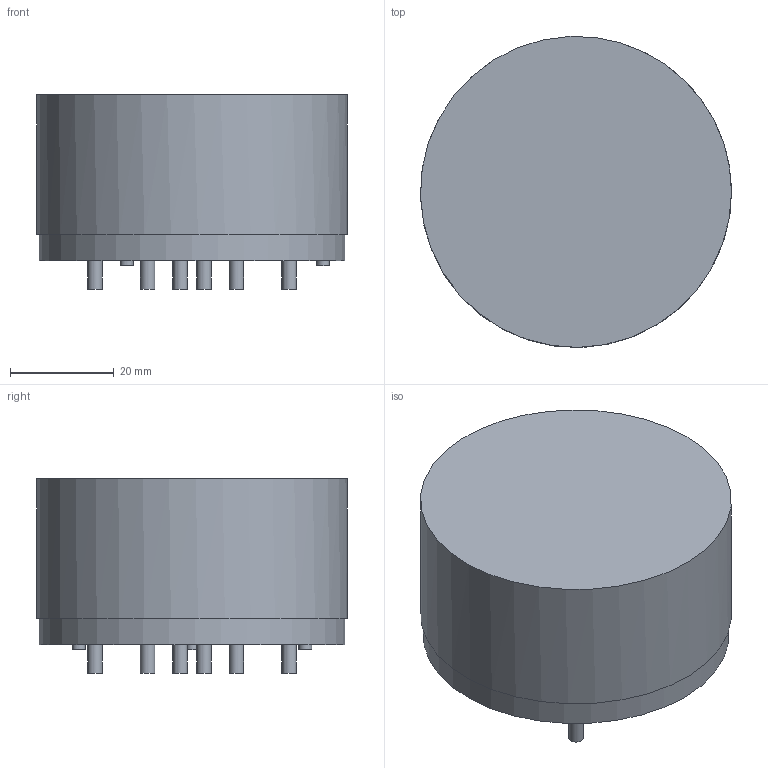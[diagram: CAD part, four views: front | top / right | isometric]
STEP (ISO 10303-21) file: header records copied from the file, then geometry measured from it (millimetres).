
FILE_DESCRIPTION(/* description */ (''),/* implementation_level */ '2;1');
FILE_NAME(/* name */ 'F:\2016年工作\2016年产品图纸\VAC\X2\4EA754C1\X0\3D模型\产品3D模型\6123-X403\6123-X403 3D model.stp',/* time_stamp */ '2016-06-24T16:22:09+08:00',/* author */ ('CN000560'),/* organization */ (''),/* preprocessor_version */ 'ST-DEVELOPER v16.1',/* originating_system */ 'Autodesk Inventor 2016',/* authorisation */ '');
FILE_SCHEMA (('AUTOMOTIVE_DESIGN { 1 0 10303 214 3 1 1 }'));
Length unit declared in the file: millimetre
Products named in the file (1): 6123-X403 3D model
Bounding box: 59.99 x 59.98 x 37.5 mm (x, y, z)
Volume: 90284.1 mm3; surface area: 12088.5 mm2
Topology: 1 solids, 1 shells, 28 faces, 43 edges, 29 vertices
Faces by surface type: cylinder 14, plane 14
Full cylindrical faces by diameter (mm): 2.5 x3, 2.8 x8, 60 x1
Entity records: 598 total; most frequent: DIRECTION 116, CARTESIAN_POINT 87, ORIENTED_EDGE 60, AXIS2_PLACEMENT_3D 57, EDGE_LOOP 52, EDGE_CURVE 30, FACE_OUTER_BOUND 28, CIRCLE 28
